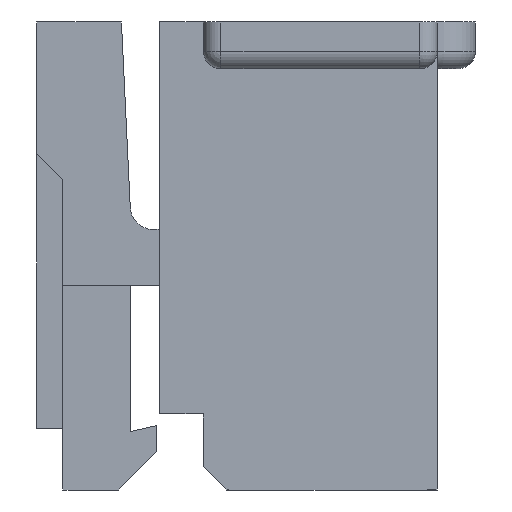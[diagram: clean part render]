
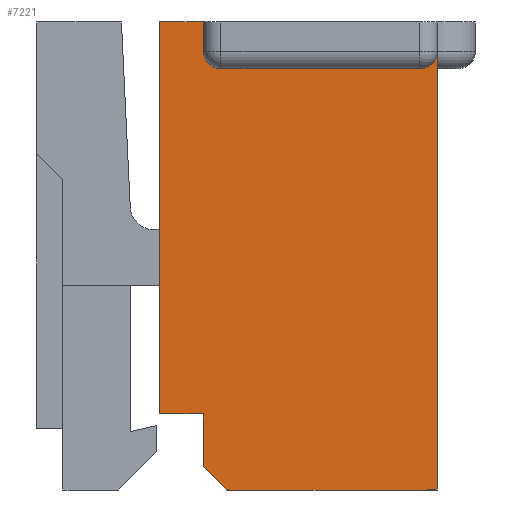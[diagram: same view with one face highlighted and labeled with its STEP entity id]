
A CAD part, left-side view. The second image highlights one B-rep face of the part: STEP entity #7221.
In plain terms, the highlighted planar face has unit normal (-1, 0, 0).
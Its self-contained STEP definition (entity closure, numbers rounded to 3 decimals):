
#220=CARTESIAN_POINT('Vertex',(-11.65,4.,0.4)) ;
#236=CARTESIAN_POINT('Vertex',(-11.65,3.6,0.)) ;
#239=CARTESIAN_POINT('Line Origine',(-11.65,3.8,0.2)) ;
#789=CARTESIAN_POINT('Line Origine',(-11.65,4.,0.85)) ;
#793=CARTESIAN_POINT('Vertex',(-11.65,4.,1.3)) ;
#3699=CARTESIAN_POINT('Line Origine',(-11.65,4.375,1.3)) ;
#3703=CARTESIAN_POINT('Vertex',(-11.65,4.75,1.3)) ;
#5304=CARTESIAN_POINT('Vertex',(-11.65,4.75,8.)) ;
#5307=CARTESIAN_POINT('Line Origine',(-11.65,4.75,4.65)) ;
#7013=CARTESIAN_POINT('Vertex',(-11.65,0.,0.)) ;
#7016=CARTESIAN_POINT('Line Origine',(-11.65,1.8,0.)) ;
#7163=CARTESIAN_POINT('Axis2P3D Location',(-11.65,4.,0.)) ;
#7168=CARTESIAN_POINT('Line Origine',(-11.65,2.,7.2)) ;
#7172=CARTESIAN_POINT('Vertex',(-11.65,3.7,7.2)) ;
#7174=CARTESIAN_POINT('Vertex',(-11.65,0.3,7.2)) ;
#7177=CARTESIAN_POINT('Axis2P3D Location',(-11.65,3.7,7.5)) ;
#7181=CARTESIAN_POINT('Vertex',(-11.65,4.,7.5)) ;
#7184=CARTESIAN_POINT('Line Origine',(-11.65,4.,7.75)) ;
#7188=CARTESIAN_POINT('Vertex',(-11.65,4.,8.)) ;
#7191=CARTESIAN_POINT('Line Origine',(-11.65,4.375,8.)) ;
#7196=CARTESIAN_POINT('Line Origine',(-11.65,0.,3.75)) ;
#7200=CARTESIAN_POINT('Vertex',(-11.65,0.,7.5)) ;
#7203=CARTESIAN_POINT('Axis2P3D Location',(-11.65,0.3,7.5)) ;
#240=DIRECTION('Vector Direction',(0.,-0.707,-0.707)) ;
#790=DIRECTION('Vector Direction',(0.,0.,1.)) ;
#3700=DIRECTION('Vector Direction',(0.,1.,0.)) ;
#5308=DIRECTION('Vector Direction',(0.,0.,-1.)) ;
#7017=DIRECTION('Vector Direction',(0.,-1.,0.)) ;
#7164=DIRECTION('Axis2P3D Direction',(1.,0.,-0.)) ;
#7165=DIRECTION('Axis2P3D XDirection',(0.,0.,1.)) ;
#7169=DIRECTION('Vector Direction',(0.,-1.,0.)) ;
#7178=DIRECTION('Axis2P3D Direction',(1.,0.,-0.)) ;
#7185=DIRECTION('Vector Direction',(0.,0.,-1.)) ;
#7192=DIRECTION('Vector Direction',(0.,1.,0.)) ;
#7197=DIRECTION('Vector Direction',(0.,0.,1.)) ;
#7204=DIRECTION('Axis2P3D Direction',(1.,0.,-0.)) ;
#7166=AXIS2_PLACEMENT_3D('Plane Axis2P3D',#7163,#7164,#7165) ;
#7179=AXIS2_PLACEMENT_3D('Circle Axis2P3D',#7177,#7178,$) ;
#7205=AXIS2_PLACEMENT_3D('Circle Axis2P3D',#7203,#7204,$) ;
#7209=ORIENTED_EDGE('',*,*,#7176,.F.) ;
#7210=ORIENTED_EDGE('',*,*,#7183,.F.) ;
#7211=ORIENTED_EDGE('',*,*,#7190,.T.) ;
#7212=ORIENTED_EDGE('',*,*,#7195,.T.) ;
#7213=ORIENTED_EDGE('',*,*,#5311,.F.) ;
#7214=ORIENTED_EDGE('',*,*,#3705,.F.) ;
#7215=ORIENTED_EDGE('',*,*,#795,.T.) ;
#7216=ORIENTED_EDGE('',*,*,#243,.T.) ;
#7217=ORIENTED_EDGE('',*,*,#7020,.T.) ;
#7218=ORIENTED_EDGE('',*,*,#7202,.T.) ;
#7219=ORIENTED_EDGE('',*,*,#7207,.F.) ;
#241=VECTOR('Line Direction',#240,1.) ;
#791=VECTOR('Line Direction',#790,1.) ;
#3701=VECTOR('Line Direction',#3700,1.) ;
#5309=VECTOR('Line Direction',#5308,1.) ;
#7018=VECTOR('Line Direction',#7017,1.) ;
#7170=VECTOR('Line Direction',#7169,1.) ;
#7186=VECTOR('Line Direction',#7185,1.) ;
#7193=VECTOR('Line Direction',#7192,1.) ;
#7198=VECTOR('Line Direction',#7197,1.) ;
#7221=ADVANCED_FACE('\X2\96F64EF651E04F554F53\X0\',(#7220),#7167,.F.) ;
#7180=CIRCLE('generated circle',#7179,0.3) ;
#7206=CIRCLE('generated circle',#7205,0.3) ;
#243=EDGE_CURVE('',#221,#237,#242,.T.) ;
#795=EDGE_CURVE('',#794,#221,#792,.F.) ;
#3705=EDGE_CURVE('',#794,#3704,#3702,.T.) ;
#5311=EDGE_CURVE('',#3704,#5305,#5310,.F.) ;
#7020=EDGE_CURVE('',#237,#7014,#7019,.T.) ;
#7176=EDGE_CURVE('',#7173,#7175,#7171,.T.) ;
#7183=EDGE_CURVE('',#7182,#7173,#7180,.F.) ;
#7190=EDGE_CURVE('',#7182,#7189,#7187,.F.) ;
#7195=EDGE_CURVE('',#7189,#5305,#7194,.T.) ;
#7202=EDGE_CURVE('',#7014,#7201,#7199,.T.) ;
#7207=EDGE_CURVE('',#7175,#7201,#7206,.F.) ;
#7208=EDGE_LOOP('',(#7209,#7210,#7211,#7212,#7213,#7214,#7215,#7216,#7217,#7218,#7219)) ;
#7220=FACE_OUTER_BOUND('',#7208,.T.) ;
#242=LINE('Line',#239,#241) ;
#792=LINE('Line',#789,#791) ;
#3702=LINE('Line',#3699,#3701) ;
#5310=LINE('Line',#5307,#5309) ;
#7019=LINE('Line',#7016,#7018) ;
#7171=LINE('Line',#7168,#7170) ;
#7187=LINE('Line',#7184,#7186) ;
#7194=LINE('Line',#7191,#7193) ;
#7199=LINE('Line',#7196,#7198) ;
#7167=PLANE('Plane',#7166) ;
#221=VERTEX_POINT('',#220) ;
#237=VERTEX_POINT('',#236) ;
#794=VERTEX_POINT('',#793) ;
#3704=VERTEX_POINT('',#3703) ;
#5305=VERTEX_POINT('',#5304) ;
#7014=VERTEX_POINT('',#7013) ;
#7173=VERTEX_POINT('',#7172) ;
#7175=VERTEX_POINT('',#7174) ;
#7182=VERTEX_POINT('',#7181) ;
#7189=VERTEX_POINT('',#7188) ;
#7201=VERTEX_POINT('',#7200) ;
